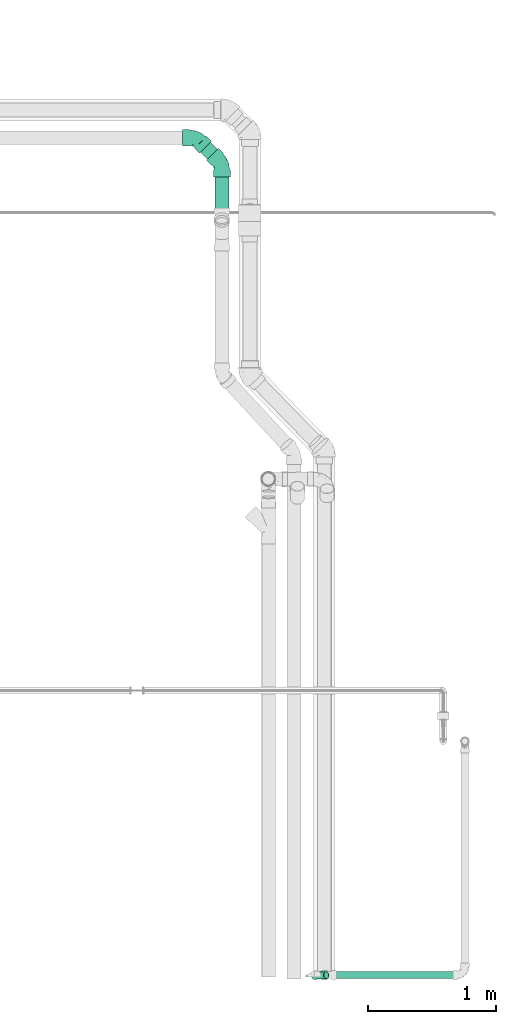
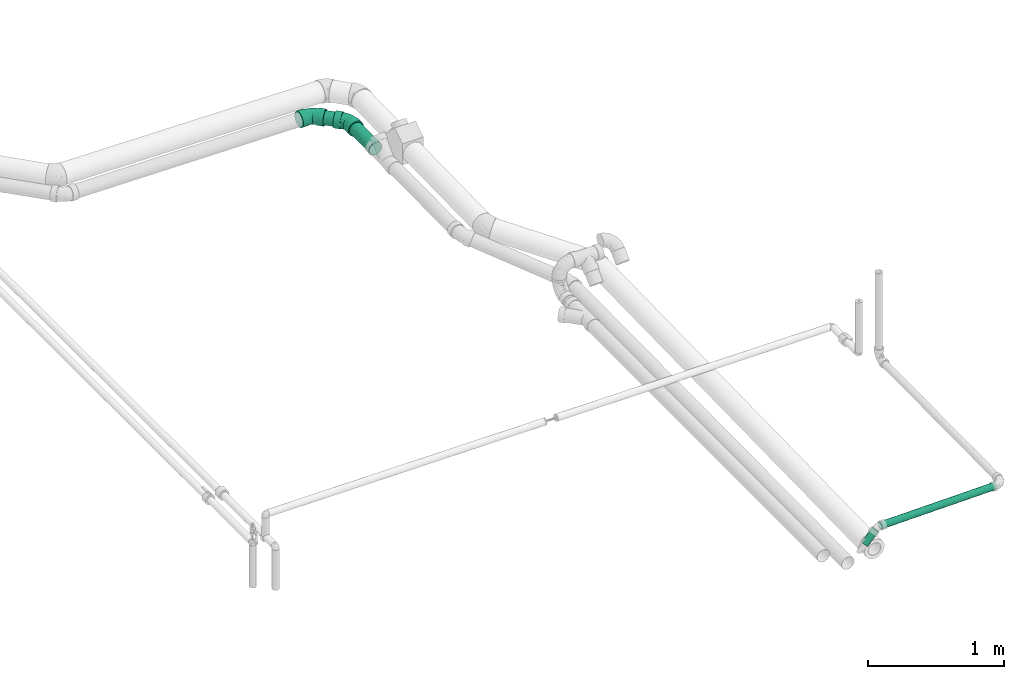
# One storey, part 34 of 78: 4 flow segments, 2 flow fittings.
"""IFC2X3 building model written with IfcOpenShell, lengths in millimetres."""

from ifc_helpers import new_model, entity, si_unit, converted_unit, derived_unit, direction, frame, origin_with_axes, origin_2d_with_axis, place, context, subcontext, project, spatial, hollow_circle, extrude, open_shell, surface_model, source, transform, mapped, type_object, element, save


model = new_model("IFC2X3")

# Units and contexts
model_context = context("Model", 3, precision=0.01, world=frame((0.0, 4.29681676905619e-09, 0.0)), true_north=direction((4.01073788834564e-13, 1.0)))
plan_context = context("Plan", 3, precision=0.01, world=frame((0.0, 4.29681676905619e-09, 0.0)), true_north=direction((4.01073788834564e-13, 1.0)))
body_context = subcontext(model_context, "Body", "Model", "MODEL_VIEW")
ifc_project = project(units=[converted_unit("PLANEANGLEUNIT", "DEGREE", entity("IfcPositiveLengthMeasure", 0.0174532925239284), si_unit("PLANEANGLEUNIT", "RADIAN"), dimensions=[0, 0, 0, 0, 0, 0, 0]), si_unit("AREAUNIT", "SQUARE_METRE"), si_unit("LENGTHUNIT", "METRE", prefix="MILLI"), si_unit("MASSUNIT", "GRAM", prefix="KILO"), si_unit("POWERUNIT", "WATT"), si_unit("PRESSUREUNIT", "PASCAL"), si_unit("FORCEUNIT", "NEWTON", prefix="KILO"), si_unit("ELECTRICVOLTAGEUNIT", "VOLT"), si_unit("ELECTRICCURRENTUNIT", "AMPERE"), si_unit("THERMODYNAMICTEMPERATUREUNIT", "DEGREE_CELSIUS"), si_unit("TIMEUNIT", "SECOND"), si_unit("VOLUMEUNIT", "CUBIC_METRE"), derived_unit("LINEARVELOCITYUNIT", [(si_unit("LENGTHUNIT", "METRE"), 1), (si_unit("TIMEUNIT", "SECOND"), -1)]), derived_unit("VOLUMETRICFLOWRATEUNIT", [(si_unit("VOLUMEUNIT", "CUBIC_METRE"), 1), (si_unit("TIMEUNIT", "SECOND"), -1)]), derived_unit("THERMALTRANSMITTANCEUNIT", [(si_unit("POWERUNIT", "WATT"), 1), (si_unit("THERMODYNAMICTEMPERATUREUNIT", "KELVIN"), -1), (si_unit("AREAUNIT", "SQUARE_METRE"), -1)]), derived_unit("SOUNDPRESSUREUNIT", [(si_unit("PRESSUREUNIT", "PASCAL"), 1)])], contexts=[model_context, plan_context])

# Site, building, storey
site_placement = place(None, frame((0.0, -4.29681676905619e-09, 0.0), z_axis=(0.0, 0.0, 1.0), x_axis=(1.0, 0.0, 0.0)))
site = spatial("IfcSite", under=ifc_project, at=site_placement, Name="ENGM", CompositionType="ELEMENT")
building_placement = place(site_placement, frame((0.0, 4.29681676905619e-09, 0.0), z_axis=(0.0, 0.0, 1.0), x_axis=(1.0, 0.0, 0.0)))
building = spatial("IfcBuilding", under=site, at=building_placement, Name="TH", CompositionType="ELEMENT")
storey_placement = place(building_placement, frame((0.0, 0.0, 205200.0), z_axis=(0.0, 0.0, 1.0), x_axis=(1.0, 0.0, 0.0)))
storey = spatial("IfcBuildingStorey", under=building, at=storey_placement, Name="Nivå D + 1,2 m", CompositionType="ELEMENT", Elevation=205200.0)

# Flow fittings
pipe_fitting_type = type_object("IfcPipeFittingType", Name="magi_sewer_bend_001 2", PredefinedType="BEND")
shared_shape_1 = source(origin_with_axes(), body_context, "Body", "SurfaceModel", [
    surface_model("IfcShellBasedSurfaceModel", [(-105.1169, -16.95265, -63.26814), (-105.1169, -32.75, -56.72466), (-105.1169, -46.3155, -46.3155), (-105.1169, -63.26814, -16.95265), (-105.1169, 56.72466, -32.75), (-105.1169, -56.72466, -32.75), (-105.1169, -65.5, 0.0), (-105.1169, 16.95265, -63.26814), (-105.1169, 0.0, -65.5), (-105.1169, 32.75, -56.72466), (-105.1169, 46.3155, -46.3155), (-105.1169, 63.26814, -16.95265), (-105.1169, -63.26814, 16.95265), (-105.1169, -56.72466, 32.75), (-105.1169, -46.3155, 46.3155), (-105.1169, 63.26814, 16.95265), (-105.1169, -16.95265, 63.26814), (-105.1169, 0.0, 65.5), (-105.1169, -32.75, 56.72466), (-105.1169, 46.3155, 46.3155), (-105.1169, 56.72466, 32.75), (-105.1169, 65.5, 0.0), (-105.1169, 16.95265, 63.26814), (-105.1169, 32.75, 56.72466), (-50.1169, -16.95265, 63.26814), (-50.1169, 16.95265, 63.26814), (-50.1169, 0.0, 65.5), (-50.1169, -46.3155, 46.3155), (-50.1169, -32.75, 56.72466), (-50.1169, -56.72466, 32.75), (-50.1169, -63.26814, 16.95265), (-50.1169, 46.3155, 46.3155), (-50.1169, 32.75, 56.72466), (-50.1169, 63.26814, 16.95265), (-50.1169, 56.72466, 32.75), (-50.1169, 63.26814, -16.95265), (-50.1169, 65.5, 0.0), (-50.1169, -63.26814, -16.95265), (-50.1169, 32.75, -56.72466), (-50.1169, -65.5, 0.0), (-50.1169, -16.95265, -63.26814), (-50.1169, -56.72466, -32.75), (-50.1169, -46.3155, -46.3155), (-50.1169, -32.75, -56.72466), (-50.1169, 0.0, -65.5), (-50.1169, 46.3155, -46.3155), (-50.1169, 56.72466, -32.75), (-50.1169, 16.95265, -63.26814), (29.59648, 119.06498, 16.95265), (34.22323, 114.43785, 32.75), (41.58332, 107.07715, 46.3155), (41.58332, 107.07715, -46.3155), (62.34512, 86.31362, 63.26814), (74.33196, 74.32579, 65.5), (51.17517, 97.48449, 56.72466), (29.59648, 119.06498, -16.95265), (28.01838, 120.64321, 0.0), (34.22323, 114.43785, -32.75), (74.33196, 74.32579, -65.5), (51.17517, 97.48449, -56.72466), (62.34512, 86.31362, -63.26814), (86.3188, 62.33796, 63.26814), (97.48874, 51.16708, 56.72466), (107.0806, 41.57443, 46.3155), (114.44069, 34.21373, 32.75), (119.06743, 29.5866, 16.95265), (120.64552, 28.00837, 0.0), (86.3188, 62.33796, -63.26814), (107.0806, 41.57443, -46.3155), (97.48874, 51.16708, -56.72466), (114.44069, 34.21373, -32.75), (119.06743, 29.5866, -16.95265), (47.42631, 23.4487, 63.26814), (81.75304, -10.88089, 0.0), (80.17495, -9.30266, 16.95265), (68.18811, 2.68517, 46.3155), (75.5482, -4.67553, 32.75), (58.59626, 12.27782, 56.72466), (47.42631, 23.4487, -63.26814), (68.18811, 2.68517, -46.3155), (75.5482, -4.67553, -32.75), (80.17495, -9.30266, -16.95265), (58.59626, 12.27782, -56.72466), (12.28268, 58.59524, -56.72466), (35.43947, 35.43653, -65.5), (23.45264, 47.42436, 63.26814), (-9.29601, 80.17572, 16.95265), (12.28268, 58.59524, 56.72466), (2.69083, 68.18789, 46.3155), (-4.66926, 75.54859, 32.75), (-4.66926, 75.54859, -32.75), (2.69083, 68.18789, -46.3155), (23.45264, 47.42436, -63.26814), (-9.29601, 80.17572, -16.95265), (-10.8741, 81.75395, 0.0), (35.43947, 35.43653, 65.5), (-50.1169, 15.65855, -58.43851), (-50.1169, 0.0, -60.5), (-50.1169, 58.43851, -15.65855), (-50.1169, 30.25, -52.39454), (-50.1169, 52.39454, -30.25), (-50.1169, 42.77996, -42.77996), (-50.1169, -60.5, 0.0), (-50.1169, -30.25, -52.39454), (-50.1169, -42.77996, -42.77996), (-50.1169, -15.65855, -58.43851), (-50.1169, -58.43851, -15.65855), (-50.1169, -52.39454, -30.25), (-50.1169, -58.43851, 15.65855), (-50.1169, 58.43851, 15.65855), (-50.1169, 52.39454, 30.25), (-50.1169, 42.77996, 42.77996), (-50.1169, 30.25, 52.39454), (-50.1169, 15.65855, 58.43851), (-50.1169, -52.39454, 30.25), (-50.1169, -42.77996, 42.77996), (-50.1169, -30.25, 52.39454), (-50.1169, -15.65855, 58.43851), (-50.1169, 0.0, 60.5), (-50.1169, 60.5, 0.0), (-5.88108, 76.76051, -15.65855), (35.43947, 35.43653, -60.5), (24.36766, 46.50926, -58.43851), (5.19073, 65.68778, -42.77996), (14.05038, 56.8274, -52.39454), (-1.60752, 72.4866, -30.25), (78.21765, -7.34521, 0.0), (46.51128, 24.3638, -58.43851), (65.68821, 5.18527, -42.77996), (56.82856, 14.04566, -52.39454), (72.48646, -1.61354, -30.25), (76.76002, -5.88745, -15.65855), (76.76002, -5.88745, 15.65855), (-5.88108, 76.76051, 15.65855), (5.19073, 65.68778, 42.77996), (-1.60752, 72.4866, 30.25), (14.05038, 56.8274, 52.39454), (24.36766, 46.50926, 58.43851), (65.68821, 5.18527, 42.77996), (72.48646, -1.61354, 30.25), (56.82856, 14.04566, 52.39454), (35.43947, 35.43653, 60.5), (46.51128, 24.3638, 58.43851), (-7.33872, 78.21826, 0.0), (15.40855, -37.20172, 33.71515), (-13.38292, -34.19335, 46.68427), (-19.53348, -46.27102, 35.42516), (-20.21123, -56.56305, 0.0), (-3.14367, -54.31619, 0.0), (-12.91156, -55.73775, 10.33117), (46.53003, -18.90823, 35.42516), (-23.97112, -22.18499, 55.29396), (6.21199, -14.99795, 54.53176), (1.79682, 36.37038, 56.46806), (10.93641, 28.63642, 59.61993), (-18.05444, -5.82515, 59.6985), (-5.75377, 13.89164, 60.28738), (-30.3117, 8.38347, 60.13283), (-17.18393, 41.48812, 49.39238), (-26.67753, 50.73819, 38.17949), (32.63735, 1.26163, 55.29396), (-23.24354, 25.17569, 56.55893), (23.34629, -39.5984, 23.84399), (-10.84632, -52.34191, 21.01029), (18.78315, -45.34919, 13.15035), (-24.92163, 60.16967, 24.85583), (48.54114, -30.28471, 10.33117), (54.28655, -25.70687, 0.0), (-24.23206, 64.82653, 12.71167), (44.67961, -29.34367, 21.01029), (16.88578, 8.64671, 59.6985), (33.64089, -14.71659, 46.68427), (-26.96571, 65.10481, 0.0), (10.15438, -24.51628, 48.24607), (18.74254, -45.25115, 0.0), (40.62875, -36.18612, 0.0), (-18.05444, -5.82515, -59.6985), (-12.91156, -55.73775, -10.33117), (18.78315, -45.34919, -13.15034), (16.88578, 8.64671, -59.6985), (-26.98727, 24.44832, -56.46806), (-27.9817, 12.51696, -59.61993), (-17.01119, 54.74188, -38.17949), (33.64089, -14.71659, -46.68427), (-24.92163, 60.16967, -24.85583), (44.67961, -29.34367, -21.01029), (-28.70201, 62.97512, -12.71167), (-1.36481, 34.23763, -56.55893), (-10.84632, -52.34191, -21.01029), (-17.18393, 41.48811, -49.39238), (-19.53348, -46.27102, -35.42516), (-13.38292, -34.19335, -46.68427), (10.15438, -24.51628, -48.24607), (15.40855, -37.20172, -33.71515), (-23.97112, -22.18499, -55.29396), (32.63735, 1.26163, -55.29396), (6.21199, -14.99795, -54.53176), (48.54114, -30.28471, -10.33117), (15.50673, 27.36098, -60.13283), (11.49013, -44.50909, -23.84399), (46.53003, -18.90823, -35.42516), (-5.75377, 13.89164, -60.28738)], [open_shell([[[0, 1, 2]], [[0, 2, 3]], [[0, 3, 4]], [[3, 2, 5]], [[4, 3, 6]], [[0, 7, 8]], [[0, 9, 7]], [[10, 9, 0]], [[0, 4, 10]], [[6, 11, 4]], [[6, 12, 11]], [[12, 13, 14]], [[11, 14, 15]], [[16, 17, 14]], [[16, 14, 18]], [[15, 14, 17]], [[15, 19, 20]], [[21, 11, 15]], [[19, 22, 23]], [[22, 19, 15]], [[17, 22, 15]], [[11, 12, 14]], [[24, 25, 26]], [[27, 24, 28]], [[27, 29, 30]], [[24, 27, 25]], [[30, 25, 27]], [[25, 31, 32]], [[31, 25, 33]], [[31, 33, 34]], [[25, 30, 33]], [[33, 35, 36]], [[33, 30, 35]], [[37, 38, 39]], [[40, 37, 41]], [[42, 43, 40]], [[42, 40, 41]], [[44, 37, 40]], [[39, 45, 46]], [[46, 35, 39]], [[38, 44, 47]], [[38, 45, 39]], [[38, 37, 44]], [[39, 35, 30]], [[35, 11, 36]], [[46, 4, 35]], [[47, 44, 7]], [[45, 10, 46]], [[35, 4, 11]], [[11, 21, 36]], [[9, 38, 7]], [[9, 10, 45]], [[38, 47, 7]], [[10, 4, 46]], [[45, 38, 9]], [[44, 8, 7]], [[0, 40, 43]], [[42, 1, 43]], [[5, 41, 37]], [[42, 41, 2]], [[3, 37, 39]], [[40, 0, 8]], [[43, 1, 0]], [[42, 2, 1]], [[41, 5, 2]], [[3, 5, 37]], [[39, 6, 3]], [[40, 8, 44]], [[30, 12, 39]], [[29, 13, 30]], [[28, 18, 27]], [[27, 14, 29]], [[30, 13, 12]], [[12, 6, 39]], [[17, 16, 24]], [[16, 18, 28]], [[14, 27, 18]], [[14, 13, 29]], [[24, 16, 28]], [[24, 26, 17]], [[22, 25, 32]], [[31, 23, 32]], [[20, 34, 33]], [[31, 34, 19]], [[15, 33, 36]], [[25, 22, 17]], [[32, 23, 22]], [[31, 19, 23]], [[34, 20, 19]], [[15, 20, 33]], [[36, 21, 15]], [[25, 17, 26]], [[48, 49, 50]], [[51, 48, 50]], [[52, 53, 50]], [[52, 50, 54]], [[51, 50, 53]], [[48, 55, 56]], [[48, 57, 55]], [[51, 58, 59]], [[57, 48, 51]], [[58, 60, 59]], [[58, 51, 53]], [[61, 62, 63]], [[58, 61, 63]], [[64, 65, 66]], [[64, 66, 63]], [[58, 63, 66]], [[67, 68, 69]], [[67, 58, 66]], [[67, 70, 68]], [[67, 66, 70]], [[71, 70, 66]], [[61, 58, 53]], [[72, 73, 74]], [[75, 74, 76]], [[75, 77, 72]], [[75, 72, 74]], [[73, 72, 78]], [[73, 79, 80]], [[80, 81, 73]], [[79, 78, 82]], [[78, 79, 73]], [[78, 83, 84]], [[78, 72, 85]], [[85, 86, 78]], [[86, 85, 87]], [[88, 89, 86]], [[88, 86, 87]], [[86, 90, 78]], [[83, 90, 91]], [[92, 84, 83]], [[83, 78, 90]], [[86, 93, 90]], [[86, 94, 93]], [[85, 72, 95]], [[92, 60, 84]], [[83, 59, 92]], [[93, 94, 55]], [[91, 51, 83]], [[92, 59, 60]], [[60, 58, 84]], [[57, 90, 55]], [[57, 51, 91]], [[90, 93, 55]], [[51, 59, 83]], [[91, 90, 57]], [[94, 56, 55]], [[48, 86, 89]], [[88, 49, 89]], [[54, 87, 85]], [[88, 87, 50]], [[52, 85, 95]], [[86, 48, 56]], [[89, 49, 48]], [[88, 50, 49]], [[87, 54, 50]], [[52, 54, 85]], [[95, 53, 52]], [[86, 56, 94]], [[72, 61, 95]], [[77, 62, 72]], [[76, 64, 75]], [[75, 63, 77]], [[72, 62, 61]], [[61, 53, 95]], [[66, 65, 74]], [[65, 64, 76]], [[63, 75, 64]], [[63, 62, 77]], [[74, 65, 76]], [[74, 73, 66]], [[71, 81, 80]], [[79, 70, 80]], [[69, 82, 78]], [[79, 82, 68]], [[67, 78, 84]], [[81, 71, 66]], [[80, 70, 71]], [[79, 68, 70]], [[82, 69, 68]], [[67, 69, 78]], [[84, 58, 67]], [[81, 66, 73]], [[96, 97, 98]], [[99, 96, 98]], [[98, 100, 101]], [[99, 98, 101]], [[102, 98, 97]], [[103, 104, 105]], [[104, 97, 105]], [[106, 102, 107]], [[104, 107, 102]], [[104, 102, 97]], [[102, 108, 98]], [[109, 98, 108]], [[110, 109, 111]], [[112, 109, 108]], [[111, 109, 112]], [[113, 112, 108]], [[114, 115, 108]], [[116, 108, 115]], [[117, 118, 116]], [[108, 116, 118]], [[118, 113, 108]], [[119, 98, 109]], [[120, 121, 122]], [[123, 122, 124]], [[123, 125, 120]], [[123, 120, 122]], [[121, 120, 126]], [[127, 128, 129]], [[127, 121, 128]], [[130, 126, 131]], [[126, 130, 128]], [[121, 126, 128]], [[120, 132, 126]], [[132, 120, 133]], [[134, 133, 135]], [[133, 136, 132]], [[136, 133, 134]], [[137, 132, 136]], [[132, 138, 139]], [[138, 132, 140]], [[140, 141, 142]], [[141, 140, 132]], [[132, 137, 141]], [[133, 120, 143]], [[144, 145, 146]], [[147, 148, 149]], [[116, 115, 145]], [[139, 138, 150]], [[151, 145, 152]], [[146, 145, 115]], [[137, 153, 154]], [[117, 116, 151]], [[155, 156, 157]], [[118, 117, 155]], [[111, 158, 159]], [[140, 142, 160]], [[157, 113, 118]], [[112, 161, 158]], [[108, 147, 149]], [[136, 134, 158]], [[162, 163, 164]], [[158, 111, 112]], [[115, 114, 146]], [[110, 159, 165]], [[109, 110, 165]], [[132, 166, 167]], [[168, 119, 109]], [[169, 162, 164]], [[163, 149, 164]], [[112, 113, 161]], [[141, 154, 170]], [[138, 140, 171]], [[135, 133, 165]], [[170, 142, 141]], [[144, 146, 163]], [[138, 171, 150]], [[156, 154, 153]], [[171, 140, 160]], [[114, 163, 146]], [[166, 132, 169]], [[144, 150, 171]], [[157, 161, 113]], [[144, 162, 150]], [[109, 165, 168]], [[114, 108, 163]], [[172, 168, 143]], [[145, 173, 152]], [[133, 168, 165]], [[152, 170, 155]], [[135, 165, 159]], [[152, 160, 170]], [[135, 159, 134]], [[156, 155, 170]], [[137, 136, 153]], [[153, 158, 161]], [[151, 155, 117]], [[110, 111, 159]], [[169, 132, 139]], [[169, 139, 150]], [[173, 144, 171]], [[134, 159, 158]], [[158, 153, 136]], [[156, 153, 161]], [[145, 151, 116]], [[155, 151, 152]], [[170, 160, 142]], [[171, 160, 152]], [[108, 102, 147]], [[164, 148, 174]], [[108, 149, 163]], [[148, 164, 149]], [[166, 164, 175]], [[167, 166, 175]], [[167, 126, 132]], [[164, 166, 169]], [[170, 154, 156]], [[141, 137, 154]], [[155, 157, 118]], [[161, 157, 156]], [[144, 173, 145]], [[171, 152, 173]], [[143, 168, 133]], [[168, 172, 119]], [[150, 162, 169]], [[163, 162, 144]], [[175, 164, 174]], [[105, 97, 176]], [[148, 177, 178]], [[121, 127, 179]], [[180, 181, 96]], [[100, 182, 101]], [[129, 128, 183]], [[184, 182, 100]], [[130, 131, 185]], [[98, 186, 184]], [[124, 122, 187]], [[106, 177, 147]], [[99, 180, 96]], [[177, 106, 188]], [[123, 189, 182]], [[188, 107, 190]], [[190, 104, 191]], [[104, 103, 191]], [[192, 193, 191]], [[106, 107, 188]], [[104, 190, 107]], [[194, 103, 105]], [[195, 179, 127]], [[120, 125, 184]], [[196, 194, 176]], [[119, 172, 186]], [[193, 190, 191]], [[143, 120, 186]], [[196, 176, 179]], [[123, 124, 189]], [[184, 100, 98]], [[125, 182, 184]], [[194, 191, 103]], [[187, 189, 124]], [[181, 176, 97]], [[189, 187, 180]], [[101, 189, 99]], [[131, 167, 197]], [[198, 122, 121]], [[195, 127, 129]], [[199, 185, 178]], [[128, 200, 183]], [[196, 195, 183]], [[128, 130, 200]], [[201, 198, 179]], [[200, 193, 183]], [[201, 179, 176]], [[197, 167, 175]], [[198, 187, 122]], [[201, 181, 180]], [[177, 188, 178]], [[193, 199, 190]], [[183, 192, 196]], [[130, 185, 200]], [[120, 184, 186]], [[193, 200, 185]], [[125, 123, 182]], [[101, 182, 189]], [[189, 180, 99]], [[201, 180, 187]], [[176, 194, 105]], [[191, 194, 196]], [[183, 195, 129]], [[179, 195, 196]], [[147, 177, 148]], [[147, 102, 106]], [[199, 178, 188]], [[197, 178, 185]], [[178, 175, 174]], [[131, 126, 167]], [[178, 197, 175]], [[131, 197, 185]], [[176, 181, 201]], [[97, 96, 181]], [[179, 198, 121]], [[187, 198, 201]], [[193, 192, 183]], [[191, 196, 192]], [[119, 186, 98]], [[186, 172, 143]], [[190, 199, 188]], [[185, 199, 193]], [[148, 178, 174]]])]),
])
for number, where, z_axis, x_axis, name in (
    (1, (903101.94833, 482399.18668, 4359.35651000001), (0.004169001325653, -0.00999900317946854, 0.999941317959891), (-3.79358395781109e-09, 0.999950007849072, 0.00999909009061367), "magi_sewer_bend_001 2"),
    (2, (902899.30425, 482601.83076, 4362.22777999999), (0.00999900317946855, -0.00416900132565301, 0.999941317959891), (-0.707071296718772, 0.707071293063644, 0.0100183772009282), "magi_sewer_bend_001 2"),
):
    element("IfcFlowFitting", number, at=place(storey_placement, frame(where, z_axis=z_axis, x_axis=x_axis)), inside=storey, type_object=pipe_fitting_type, Name=name, context=body_context, shape_type="MappedRepresentation", body=[
        mapped(shared_shape_1, transform((0.0, 0.0, 0.0), scale=1.0)),
    ])

# Flow segments
pipe_segment_type = type_object("IfcPipeSegmentType", Name="MA", PredefinedType="RIGIDSEGMENT")
shared_shape_2 = source(origin_with_axes(), body_context, "Body", "SweptSolid", [
    extrude(hollow_circle(Radius=55.0, WallThickness=2.0, at=origin_2d_with_axis()), frame((0.0, 0.0, 0.0), z_axis=(1.0, 0.0, 0.0), x_axis=(0.0, 1.0, 0.0)), (0.0, 0.0, 1.0), 344.7),
])
flow_segment_1_placement = place(storey_placement, frame((903101.94833, 482349.07229, 4358.85535999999), z_axis=(1.0, 0.0, 0.0), x_axis=(0.0, -0.999949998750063, -0.00999999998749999)))
element("IfcFlowSegment", 3, at=flow_segment_1_placement, inside=storey, type_object=pipe_segment_type, Name="MA", context=body_context, shape_type="MappedRepresentation", body=[
    mapped(shared_shape_2, transform((0.0, 0.0, 0.0), scale=1.0)),
])
shared_shape_3 = source(origin_with_axes(), body_context, "Body", "SweptSolid", [
    extrude(hollow_circle(Radius=55.0, WallThickness=2.0, at=origin_2d_with_axis()), frame((0.0, 0.0, 0.0), z_axis=(1.0, 0.0, 0.0), x_axis=(0.0, 1.0, 0.0)), (0.0, 0.0, 1.0), 186.4),
])
flow_segment_2_placement = place(storey_placement, frame((903066.51211, 482434.6229, 4359.85860000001), z_axis=(-0.707129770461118, -0.707071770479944, -0.00412299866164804), x_axis=(-0.707071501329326, 0.707071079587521, 0.0100190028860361)))
element("IfcFlowSegment", 4, at=flow_segment_2_placement, inside=storey, type_object=pipe_segment_type, Name="MA", context=body_context, shape_type="MappedRepresentation", body=[
    mapped(shared_shape_3, transform((0.0, 0.0, 0.0), scale=1.0)),
])
shared_shape_4 = source(origin_with_axes(), body_context, "Body", "SweptSolid", [
    extrude(hollow_circle(Radius=29.0, WallThickness=2.0, at=origin_2d_with_axis()), frame((0.0, 0.0, 0.0), z_axis=(1.0, 0.0, 0.0), x_axis=(0.0, 1.0, 0.0)), (0.0, 0.0, 1.0), 980.9),
])
flow_segment_3_placement = place(storey_placement, frame((904939.59425, 476048.41469, 4289.55441000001), z_axis=(0.0166500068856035, -0.0460490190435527, -0.998800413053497), x_axis=(-0.99986108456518, -1.6957330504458e-07, -0.0166676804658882)))
element("IfcFlowSegment", 5, at=flow_segment_3_placement, inside=storey, type_object=pipe_segment_type, Name="MA", context=body_context, shape_type="MappedRepresentation", body=[
    mapped(shared_shape_4, transform((0.0, 0.0, 0.0), scale=1.0)),
])
shared_shape_5 = source(origin_with_axes(), body_context, "Body", "SweptSolid", [
    extrude(hollow_circle(Radius=29.0, WallThickness=2.0, at=origin_2d_with_axis()), frame((0.0, 0.0, 0.0), z_axis=(1.0, 0.0, 0.0), x_axis=(0.0, 1.0, 0.0)), (0.0, 0.0, 1.0), 137.3),
])
flow_segment_4_placement = place(storey_placement, frame((903918.11673, 476047.63242, 4255.55447), z_axis=(-0.158886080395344, -0.967299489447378, 0.197704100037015), x_axis=(-0.695235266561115, -0.0325618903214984, -0.718044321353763)))
element("IfcFlowSegment", 6, at=flow_segment_4_placement, inside=storey, type_object=pipe_segment_type, Name="MA", context=body_context, shape_type="MappedRepresentation", body=[
    mapped(shared_shape_5, transform((0.0, 0.0, 0.0), scale=1.0)),
])

save(model, "model.ifc")
